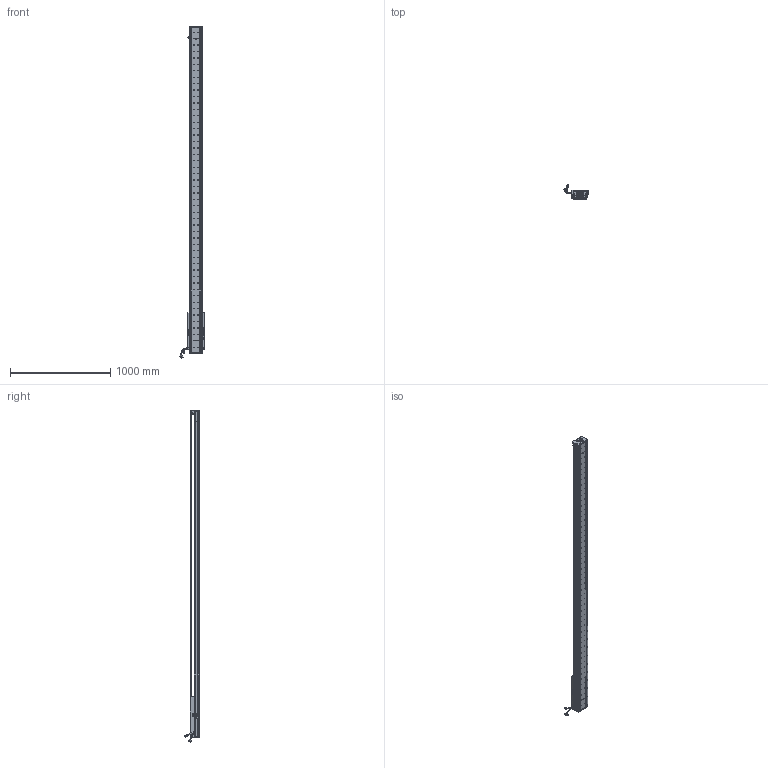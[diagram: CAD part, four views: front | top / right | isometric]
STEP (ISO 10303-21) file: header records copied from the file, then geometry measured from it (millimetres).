
FILE_DESCRIPTION (( 'STEP AP203' ), '1' );
FILE_NAME ('Z5-RY140D-1-L500-B-K.SLDASM_2800.step', '2021-05-17T08:41:48', ( '盈信电脑' ), ( '东莞市道滘镇水果街19号' ), 'SwSTEP 2.0', 'SolidWorks 2016', '' );
FILE_SCHEMA (( 'CONFIG_CONTROL_DESIGN' ));
Length unit declared in the file: millimetre
Products named in the file (36): SEAL-Part-1; SCALE-Part-2; PSLH080_PSLF2; 140雄赽晤鎢ん堤盄; 140蚥薯蝶輸; SCREW-M1.7-1; Z-RY140感应器672光电感应片; SHIELDPLATE; 詩湍奻揤裔; COVER; SCREW-M1.7; HARNESS-Part-1; 詩湍狟揤裔; Z-140詩湍傷裔啣; SCALE; Z5-RY140-L500詩湍100mm遵_2800; 080黍杅芛假蚾釱21遴; SCALE-Part-1; 覜茼ん672; SCREW-M1.6-3; Z5-RY140D-1-L500-B-K.SLDASM_2800; SCREW-M1.6; LABEL; Z5-RY140-L500直线电机模组底座_2800; HOLDER0; 榋妏寠巭燃_暯_M2_2; HARNESS-Part-2; HARNESS; PBU_SHEET; SEAL; SCREW-M1.6-1; LABEL-Part-1; 140-Z-臏賑輸盄裔(21遴); SCREW-M1.6-2; COVER-Part-1; Z5-RY140圉猾敕臏賑輸(21遴)
Assembly tree (41 placements, depth 4):
  Z5-RY140D-1-L500-B-K.SLDASM_2800
    Z5-RY140-L500直线电机模组底座_2800
    Z-RY140感应器672光电感应片
    Z5-RY140圉猾敕臏賑輸(21遴)
    覜茼ん672  x3
    Z5-RY140-L500詩湍100mm遵_2800
    PSLH080_PSLF2
      SCALE
        SCALE-Part-1
        SCALE-Part-2
      HARNESS
        HARNESS-Part-1
        HARNESS-Part-2
      LABEL
        LABEL-Part-1
      COVER
        COVER-Part-1
      SEAL
        SEAL-Part-1
      榋妏寠巭燃_暯_M2_2
      SHIELDPLATE
      SCREW-M1.7
      SCREW-M1.7-1
      PBU_SHEET
      SCREW-M1.6
      SCREW-M1.6-1
      SCREW-M1.6-2
      SCREW-M1.6-3
      HOLDER0
    080黍杅芛假蚾釱21遴
    140-Z-臏賑輸盄裔(21遴)
    Z-140詩湍傷裔啣  x2
    詩湍狟揤裔  x2
    詩湍奻揤裔  x2
    140蚥薯蝶輸  x2
    140雄赽晤鎢ん堤盄
Bounding box: 239.79 x 143.88 x 3305.87 mm (x, y, z)
Volume: 10744063.3 mm3; surface area: 2765983.8 mm2
Topology: 36 solids, 36 shells, 4680 faces, 12837 edges, 8140 vertices
Faces by surface type: cylinder 2634, plane 1478, cone 446, torus 69, bspline 53
Entity records: 151741 total; most frequent: CARTESIAN_POINT 43865, ORIENTED_EDGE 22506, DIRECTION 20541, EDGE_CURVE 11253, AXIS2_PLACEMENT_3D 7680, VERTEX_POINT 7308, VECTOR 5181, LINE 5181
